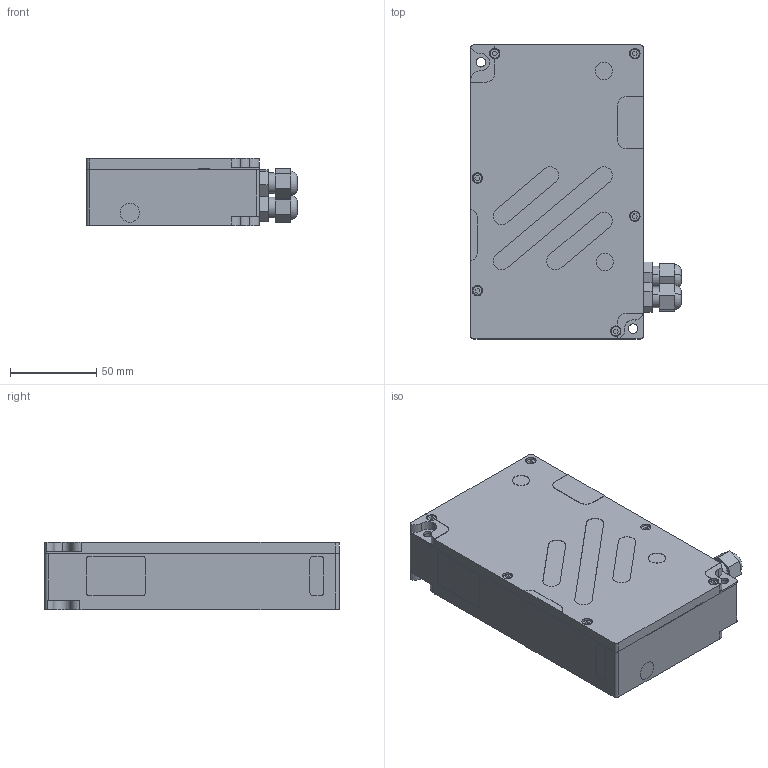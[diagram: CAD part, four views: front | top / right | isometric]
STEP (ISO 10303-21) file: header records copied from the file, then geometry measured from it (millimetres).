
FILE_DESCRIPTION (( 'STEP AP203' ), '1' );
FILE_NAME ('ÐÔ 625-240_20.STEP', '2014-04-24T12:34:03', ( 'Serg' ), ( '' ), 'SwSTEP 2.0', 'SolidWorks 2012', '' );
FILE_SCHEMA (( 'CONFIG_CONTROL_DESIGN' ));
Length unit declared in the file: millimetre
Products named in the file (12): 俶 625-240_20; RF049.028_Ñòåêëî 34õ23; 佤瞁鍱; Ïðîáêà ñïåöèàëüíàÿ; RF603.00.152_扻豵鵨 錟谾譇; ﾋ珸褞 LDM-0808-1000-93; RF049.028_Ñòåêëî 23õ8; Âèíò_Ì3õ8; Øàéáà ïðóæèííàÿ_3; 性 625.240.00誣 署赅; Ïðèçìà 6õ90; 俶 625.240.00惛 扻豵鵨
Assembly tree (17 placements, depth 2):
  俶 625-240_20
    俶 625.240.00惛 扻豵鵨
    Ïðèçìà 6õ90
    性 625.240.00誣 署赅
    Øàéáà ïðóæèííàÿ_3
    Âèíò_Ì3õ8  x6
    RF049.028_Ñòåêëî 23õ8
    ﾋ珸褞 LDM-0808-1000-93
    RF603.00.152_扻豵鵨 錟谾譇
    Ïðîáêà ñïåöèàëüíàÿ
    佤瞁鍱  x2
    RF049.028_Ñòåêëî 34õ23
Bounding box: 121.97 x 170 x 39 mm (x, y, z)
Volume: 212961 mm3; surface area: 125916.1 mm2
Topology: 23 solids, 23 shells, 823 faces, 2093 edges, 1343 vertices
Faces by surface type: plane 382, cylinder 351, cone 78, torus 12
Entity records: 22501 total; most frequent: DIRECTION 3849, CARTESIAN_POINT 3658, ORIENTED_EDGE 3504, EDGE_CURVE 1752, AXIS2_PLACEMENT_3D 1401, VERTEX_POINT 1150, VECTOR 1047, LINE 1047
